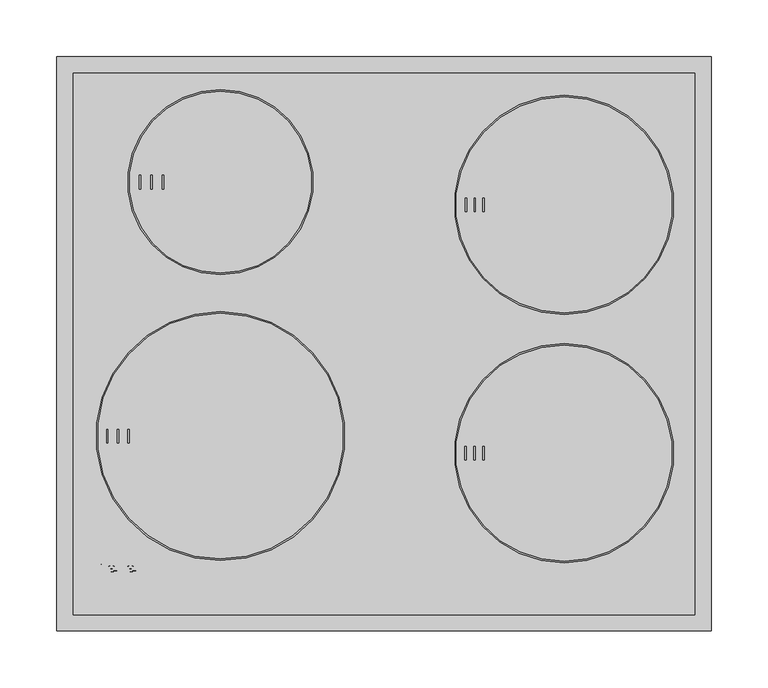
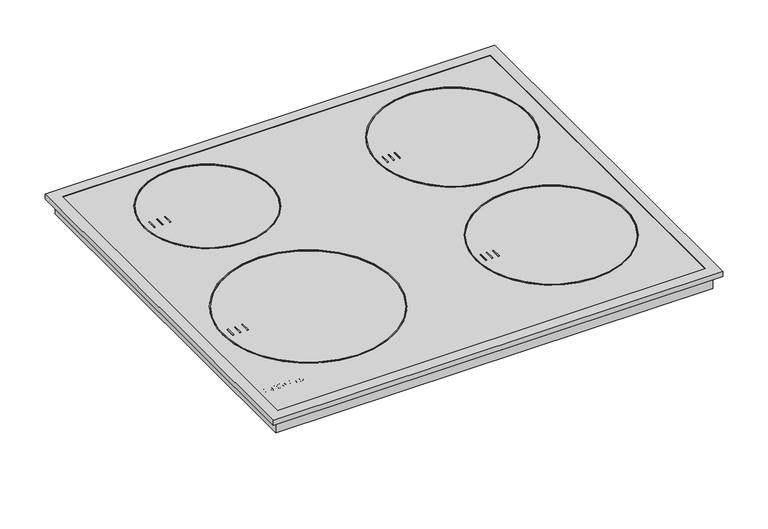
"""IFC4 building model written with IfcOpenShell, lengths in millimetres: proxy geometry, 11022840_D_KM7201FR : 26720110_D_11022840_KM7201FR."""

from ifc_helpers import new_model, si_unit, point, frame, frame_2d, origin, place, context, project, spatial, polyline, circle_curve, ellipse_curve, trimmed, segment, composite_curve, outline, extrude, faceted_brep, source, transform, mapped, element, save
from ifc_brep_helpers import plane_surface, cylinder_surface, revolved_surface, extruded_surface, advanced_brep


def specialty_equipment_637ebf5e(model_context):
    return source(origin(), model_context, "Body", "SolidModel", [
        extrude(outline(polyline([(279.0, 496.0), (279.0, 8.0), (-279.0, 8.0), (-279.0, 496.0), (279.0, 496.0)])), frame((0.0, 0.0, -18.0), z_axis=(0.0, 0.0, 1.0), x_axis=(1.0, 0.0, 0.0)), (0.0, 0.0, 1.0), 20.0),
        extrude(outline(polyline([(-192.8, 310.7), (-214.2, 310.7), (-214.2, 394.1), (-192.8, 394.1), (-192.8, 444.3), (213.2, 444.3), (213.2, 73.3), (-192.8, 73.3), (-192.8, 310.7)])), frame((0.0, 0.0, -47.7), z_axis=(0.0, 0.0, 1.0), x_axis=(1.0, 0.0, 0.0)), (0.0, 0.0, 1.0), 29.7),
        extrude(outline(polyline([(284.0, 498.0), (284.0, 1.0), (-284.0, 1.0), (-284.0, 498.0), (284.0, 498.0)])), frame((0.0, 0.0, 2.0), z_axis=(0.0, 0.0, 1.0), x_axis=(1.0, 0.0, 0.0)), (0.0, 0.0, 1.0), 4.0),
        faceted_brep([(272.9, 489.9, 7.0), (272.9, 489.9, 6.0), (272.9, 14.1, 6.0), (272.9, 14.1, 7.0), (287.0, 504.0, 0.0), (287.0, 504.0, 7.0), (287.0, 0.0, 7.0), (287.0, 0.0, 0.0), (286.0, 503.0, 6.0), (286.0, 503.0, 0.0), (286.0, 1.0, 0.0), (286.0, 1.0, 6.0), (-272.9, 14.1, 6.0), (-272.9, 14.1, 7.0), (-287.0, 0.0, 7.0), (-287.0, 0.0, 0.0), (-286.0, 1.0, 0.0), (-286.0, 1.0, 6.0), (-272.9, 489.9, 6.0), (-272.9, 489.9, 7.0), (-287.0, 504.0, 7.0), (-287.0, 504.0, 0.0), (-286.0, 503.0, 0.0), (-286.0, 503.0, 6.0)], [[[0, 1, 2, 3]], [[4, 5, 6, 7]], [[8, 9, 10, 11]], [[3, 2, 12, 13]], [[7, 6, 14, 15]], [[11, 10, 16, 17]], [[13, 12, 18, 19]], [[15, 14, 20, 21]], [[17, 16, 22, 23]], [[19, 18, 1, 0]], [[5, 20, 14, 6], [3, 13, 19, 0]], [[21, 20, 5, 4]], [[7, 15, 21, 4], [9, 22, 16, 10]], [[23, 22, 9, 8]], [[11, 17, 23, 8], [1, 18, 12, 2]]]),
        extrude(outline(polyline([(151.2772603, 407.5), (143.9, 407.5), (143.9, 408.7557039), (150.0215564, 408.7557039), (150.0215564, 412.0519266), (144.370889, 412.0519266), (144.370889, 413.3076304), (150.0215564, 413.3076304), (150.0215564, 416.2899271), (144.056963, 416.2899271), (144.056963, 417.545631), (151.2772603, 417.545631), (151.2772603, 407.5)])), frame((0.0, 0.0, -78.7), z_axis=(0.0, 0.0, 1.0), x_axis=(1.0, 0.0, 0.0)), (0.0, 0.0, 1.0), 1.0),
        extrude(outline(polyline([(142.0164442, 407.5), (135.7379248, 407.5), (135.7379248, 408.7557039), (140.7607403, 408.7557039), (140.7607403, 417.545631), (142.0164442, 417.545631), (142.0164442, 407.5)])), frame((0.0, 0.0, -78.7), z_axis=(0.0, 0.0, 1.0), x_axis=(1.0, 0.0, 0.0)), (0.0, 0.0, 1.0), 1.0),
        extrude(outline(composite_curve([segment(trimmed(circle_curve(frame_2d((143.9, 412.5)), 7.5), [point((143.9, 420.0))], [point((143.9, 405.0))], False, "CARTESIAN"), True, "CONTINUOUS"), segment(trimmed(circle_curve(frame_2d((143.9, 412.5)), 7.5), [point((143.9, 405.0))], [point((143.9, 420.0))], False, "CARTESIAN"), True, "CONTINUOUS")], self_intersect=False)), frame((0.0, 0.0, -77.7), z_axis=(0.0, 0.0, 1.0), x_axis=(1.0, 0.0, 0.0)), (0.0, 0.0, 1.0), 30.0),
        extrude(outline(composite_curve([segment(trimmed(circle_curve(frame_2d((158.0, 156.0)), 96.2), [point((158.0, 252.2))], [point((158.0, 59.8))], False, "CARTESIAN"), True, "CONTINUOUS"), segment(trimmed(circle_curve(frame_2d((158.0, 156.0)), 96.2), [point((158.0, 59.8))], [point((158.0, 252.2))], False, "CARTESIAN"), True, "CONTINUOUS")], self_intersect=False), holes=[composite_curve([segment(trimmed(circle_curve(frame_2d((158.0, 156.0)), 95.0), [point((158.0, 251.0))], [point((158.0, 61.0))], True, "CARTESIAN"), True, "CONTINUOUS"), segment(trimmed(circle_curve(frame_2d((158.0, 156.0)), 95.0), [point((158.0, 61.0))], [point((158.0, 251.0))], True, "CARTESIAN"), True, "CONTINUOUS")], self_intersect=False)]), frame((0.0, 0.0, 6.0), z_axis=(0.0, 0.0, 1.0), x_axis=(1.0, 0.0, 0.0)), (0.0, 0.0, 1.0), 1.0),
        extrude(outline(polyline([(86.8, 162.0), (88.0, 162.0), (88.0, 150.0), (86.8, 150.0), (86.8, 162.0)])), frame((0.0, 0.0, 6.0), z_axis=(0.0, 0.0, 1.0), x_axis=(1.0, 0.0, 0.0)), (0.0, 0.0, 1.0), 1.0),
        extrude(outline(polyline([(78.8, 150.0), (78.8, 162.0), (80.0, 162.0), (80.0, 150.0), (78.8, 150.0)])), frame((0.0, 0.0, 6.0), z_axis=(0.0, 0.0, 1.0), x_axis=(1.0, 0.0, 0.0)), (0.0, 0.0, 1.0), 1.0),
        extrude(outline(polyline([(70.8, 162.0), (72.0, 162.0), (72.0, 150.0), (70.8, 150.0), (70.8, 162.0)])), frame((0.0, 0.0, 6.0), z_axis=(0.0, 0.0, 1.0), x_axis=(1.0, 0.0, 0.0)), (0.0, 0.0, 1.0), 1.0),
        extrude(outline(composite_curve([segment(trimmed(circle_curve(frame_2d((-143.5, 394.0)), 81.2), [point((-143.5, 475.2))], [point((-143.5, 312.8))], False, "CARTESIAN"), True, "CONTINUOUS"), segment(trimmed(circle_curve(frame_2d((-143.5, 394.0)), 81.2), [point((-143.5, 312.8))], [point((-143.5, 475.2))], False, "CARTESIAN"), True, "CONTINUOUS")], self_intersect=False), holes=[composite_curve([segment(trimmed(circle_curve(frame_2d((-143.5, 394.0)), 80.0), [point((-143.5, 474.0))], [point((-143.5, 314.0))], True, "CARTESIAN"), True, "CONTINUOUS"), segment(trimmed(circle_curve(frame_2d((-143.5, 394.0)), 80.0), [point((-143.5, 314.0))], [point((-143.5, 474.0))], True, "CARTESIAN"), True, "CONTINUOUS")], self_intersect=False)]), frame((0.0, 0.0, 6.0), z_axis=(0.0, 0.0, 1.0), x_axis=(1.0, 0.0, 0.0)), (0.0, 0.0, 1.0), 1.0),
        extrude(outline(polyline([(-194.7, 400.0), (-193.5, 400.0), (-193.5, 388.0), (-194.7, 388.0), (-194.7, 400.0)])), frame((0.0, 0.0, 6.0), z_axis=(0.0, 0.0, 1.0), x_axis=(1.0, 0.0, 0.0)), (0.0, 0.0, 1.0), 1.0),
        extrude(outline(polyline([(-204.7, 400.0), (-203.5, 400.0), (-203.5, 388.0), (-204.7, 388.0), (-204.7, 400.0)])), frame((0.0, 0.0, 6.0), z_axis=(0.0, 0.0, 1.0), x_axis=(1.0, 0.0, 0.0)), (0.0, 0.0, 1.0), 1.0),
        extrude(outline(polyline([(-214.7, 400.0), (-213.5, 400.0), (-213.5, 388.0), (-214.7, 388.0), (-214.7, 400.0)])), frame((0.0, 0.0, 6.0), z_axis=(0.0, 0.0, 1.0), x_axis=(1.0, 0.0, 0.0)), (0.0, 0.0, 1.0), 1.0),
        extrude(outline(composite_curve([segment(trimmed(circle_curve(frame_2d((158.0, 374.0)), 96.2), [point((158.0, 470.2))], [point((158.0, 277.8))], False, "CARTESIAN"), True, "CONTINUOUS"), segment(trimmed(circle_curve(frame_2d((158.0, 374.0)), 96.2), [point((158.0, 277.8))], [point((158.0, 470.2))], False, "CARTESIAN"), True, "CONTINUOUS")], self_intersect=False), holes=[composite_curve([segment(trimmed(circle_curve(frame_2d((158.0, 374.0)), 95.0), [point((158.0, 469.0))], [point((158.0, 279.0))], True, "CARTESIAN"), True, "CONTINUOUS"), segment(trimmed(circle_curve(frame_2d((158.0, 374.0)), 95.0), [point((158.0, 279.0))], [point((158.0, 469.0))], True, "CARTESIAN"), True, "CONTINUOUS")], self_intersect=False)]), frame((0.0, 0.0, 6.0), z_axis=(0.0, 0.0, 1.0), x_axis=(1.0, 0.0, 0.0)), (0.0, 0.0, 1.0), 1.0),
        extrude(outline(polyline([(86.8, 380.0), (88.0, 380.0), (88.0, 368.0), (86.8, 368.0), (86.8, 380.0)])), frame((0.0, 0.0, 6.0), z_axis=(0.0, 0.0, 1.0), x_axis=(1.0, 0.0, 0.0)), (0.0, 0.0, 1.0), 1.0),
        extrude(outline(polyline([(79.1, 380.0), (80.3, 380.0), (80.3, 368.0), (79.1, 368.0), (79.1, 380.0)])), frame((0.0, 0.0, 6.0), z_axis=(0.0, 0.0, 1.0), x_axis=(1.0, 0.0, 0.0)), (0.0, 0.0, 1.0), 1.0),
        extrude(outline(polyline([(71.4, 380.0), (72.6, 380.0), (72.6, 368.0), (71.4, 368.0), (71.4, 380.0)])), frame((0.0, 0.0, 6.0), z_axis=(0.0, 0.0, 1.0), x_axis=(1.0, 0.0, 0.0)), (0.0, 0.0, 1.0), 1.0),
        extrude(outline(composite_curve([segment(trimmed(circle_curve(frame_2d((-143.5, 171.0)), 109.2), [point((-143.5, 280.2))], [point((-143.5, 61.8))], False, "CARTESIAN"), True, "CONTINUOUS"), segment(trimmed(circle_curve(frame_2d((-143.5, 171.0)), 109.2), [point((-143.5, 61.8))], [point((-143.5, 280.2))], False, "CARTESIAN"), True, "CONTINUOUS")], self_intersect=False), holes=[composite_curve([segment(trimmed(circle_curve(frame_2d((-143.5, 171.0)), 108.0), [point((-143.5, 279.0))], [point((-143.5, 63.0))], True, "CARTESIAN"), True, "CONTINUOUS"), segment(trimmed(circle_curve(frame_2d((-143.5, 171.0)), 108.0), [point((-143.5, 63.0))], [point((-143.5, 279.0))], True, "CARTESIAN"), True, "CONTINUOUS")], self_intersect=False)]), frame((0.0, 0.0, 6.0), z_axis=(0.0, 0.0, 1.0), x_axis=(1.0, 0.0, 0.0)), (0.0, 0.0, 1.0), 1.0),
        extrude(outline(polyline([(-243.5, 177.0), (-242.3, 177.0), (-242.3, 165.0), (-243.5, 165.0), (-243.5, 177.0)])), frame((0.0, 0.0, 6.0), z_axis=(0.0, 0.0, 1.0), x_axis=(1.0, 0.0, 0.0)), (0.0, 0.0, 1.0), 1.0),
        extrude(outline(polyline([(-234.1, 177.0), (-232.9, 177.0), (-232.9, 165.0), (-234.1, 165.0), (-234.1, 177.0)])), frame((0.0, 0.0, 6.0), z_axis=(0.0, 0.0, 1.0), x_axis=(1.0, 0.0, 0.0)), (0.0, 0.0, 1.0), 1.0),
        extrude(outline(polyline([(-224.7, 177.0), (-223.5, 177.0), (-223.5, 165.0), (-224.7, 165.0), (-224.7, 177.0)])), frame((0.0, 0.0, 6.0), z_axis=(0.0, 0.0, 1.0), x_axis=(1.0, 0.0, 0.0)), (0.0, 0.0, 1.0), 1.0),
        advanced_brep(
        [(-223.14, 52.6948833, 6.0802537), (-223.14, 53.5028828, 6.0811551), (-217.788, 53.5028828, 6.0811551), (-227.1, 53.5028828, 6.0811551), (-224.9, 50.7988845, 6.0781386), (-217.924, 52.6948833, 6.0802537), (-220.34, 52.6948833, 6.0802537), (-222.244, 51.7988838, 6.0792542), (-223.14, 54.5268821, 6.0822974), (-223.14, 55.3988816, 6.0832701), (-221.772, 55.3988816, 6.0832701), (-221.772, 54.5268821, 6.0822974), (-223.14, 52.6959988, 5.0802543), (-222.244, 51.7999994, 5.0792548), (-220.34, 52.6959988, 5.0802543), (-217.924, 52.6959988, 5.0802543), (-224.9, 50.8, 5.0781393), (-227.1, 53.5039983, 5.0811557), (-217.788, 53.5039983, 5.0811557), (-223.14, 53.5039983, 5.0811557), (-223.14, 54.5279977, 5.082298), (-221.772, 54.5279977, 5.082298), (-221.772, 55.3999971, 5.0832707), (-223.14, 55.3999971, 5.0832707)],
        [
            (0, 1),
            (1, 2),
            (2, 3, ellipse_curve(frame((-222.444, 53.5028828, 6.0811551), z_axis=(0.0, -0.0011155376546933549, 0.9999993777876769), x_axis=(-1.0, 0.0, 0.0)), 4.656, 3.848)),
            (3, 4, circle_curve(frame((-224.0039564, 53.7748826, 6.0814585), z_axis=(0.0, -0.0011155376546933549, 0.9999993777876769), x_axis=(0.0, -0.9999993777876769, -0.0011155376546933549)), 3.1079688)),
            (4, 5, circle_curve(frame((-222.5372064, 55.8868813, 6.0838145), z_axis=(0.0, -0.0011155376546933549, 0.9999993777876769), x_axis=(0.0, -0.9999993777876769, -0.0011155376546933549)), 5.6098607)),
            (5, 6),
            (6, 7, circle_curve(frame((-221.8529412, 53.4388828, 6.0810837), z_axis=(0.0, 0.0011155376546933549, -0.9999993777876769), x_axis=(0.0, -0.9999993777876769, -0.0011155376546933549)), 1.6859795)),
            (7, 0, circle_curve(frame((-222.244, 52.6948833, 6.0802537), z_axis=(0.0, 0.0011155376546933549, -0.9999993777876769), x_axis=(0.0, -0.9999993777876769, -0.0011155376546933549)), 0.896)),
            (8, 9),
            (9, 10, circle_curve(frame((-222.456, 55.3988816, 6.0832701), z_axis=(0.0, 0.0011155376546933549, -0.9999993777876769), x_axis=(0.0, -0.9999993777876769, -0.0011155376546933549)), 0.684)),
            (10, 11),
            (11, 8),
            (12, 13, circle_curve(frame((-222.244, 52.6959988, 5.0802543), z_axis=(0.0, -0.0011155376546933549, 0.9999993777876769), x_axis=(0.0, -0.9999993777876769, -0.0011155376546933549)), 0.896)),
            (13, 14, circle_curve(frame((-221.8529412, 53.4399984, 5.0810843), z_axis=(0.0, -0.0011155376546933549, 0.9999993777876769), x_axis=(0.0, -0.9999993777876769, -0.0011155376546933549)), 1.6859795)),
            (14, 15),
            (15, 16, circle_curve(frame((-222.5372064, 55.8879968, 5.0838151), z_axis=(0.0, 0.0011155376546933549, -0.9999993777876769), x_axis=(0.0, -0.9999993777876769, -0.0011155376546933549)), 5.6098607)),
            (16, 17, circle_curve(frame((-224.0039564, 53.7759981, 5.0814591), z_axis=(0.0, 0.0011155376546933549, -0.9999993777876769), x_axis=(0.0, -0.9999993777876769, -0.0011155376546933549)), 3.1079688)),
            (17, 18, ellipse_curve(frame((-222.444, 53.5039983, 5.0811557), z_axis=(0.0, 0.0011155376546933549, -0.9999993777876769), x_axis=(-1.0, 0.0, 0.0)), 4.656, 3.848)),
            (18, 19),
            (19, 12),
            (20, 21),
            (21, 22),
            (22, 23, circle_curve(frame((-222.456, 55.3999971, 5.0832707), z_axis=(0.0, -0.0011155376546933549, 0.9999993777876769), x_axis=(0.0, -0.9999993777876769, -0.0011155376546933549)), 0.684)),
            (23, 20),
            (0, 12),
            (19, 1),
            (18, 2),
            (5, 15),
            (14, 6),
            (17, 3),
            (13, 7),
            (16, 4),
            (8, 20),
            (23, 9),
            (22, 10),
            (21, 11),
        ],
        [
            plane_surface(frame((-223.14, 53.5028828, 6.0811551), z_axis=(0.0, -0.0011155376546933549, 0.9999993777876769), x_axis=(0.0, 0.9999993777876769, 0.0011155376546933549))),
            plane_surface(frame((-223.14, 53.5039983, 5.0811557), z_axis=(0.0, 0.0011155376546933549, -0.9999993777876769), x_axis=(0.0, -0.9999993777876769, -0.0011155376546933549))),
            plane_surface(frame((-223.14, 52.6948833, 6.0802537), z_axis=(1.0000000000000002, 0.0, 0.0), x_axis=(0.0, 0.001115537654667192, -0.999999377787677))),
            plane_surface(frame((-223.14, 53.5028828, 6.0811551), z_axis=(0.0, -0.999999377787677, -0.001115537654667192), x_axis=(0.0, 0.001115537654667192, -0.999999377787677))),
            plane_surface(frame((-217.924, 52.6948833, 6.0802537), z_axis=(0.0, 0.999999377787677, 0.001115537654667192), x_axis=(0.0, 0.001115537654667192, -0.999999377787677))),
            extruded_surface(trimmed(ellipse_curve(frame((-222.444, 53.5051139, 4.0811563), z_axis=(0.0, -0.0011155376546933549, 0.9999993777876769), x_axis=(-1.0, 0.0, 0.0)), 4.656, 3.848), [point((-217.788, 53.5051139, 4.0811563))], [point((-227.1, 53.5051139, 4.0811563))], True, "CARTESIAN"), (0.0, -0.001115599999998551, 0.9999994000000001), 1.00000002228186),
            revolved_surface(polyline([(-221.8529412, 51.75401994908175, 5.079203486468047), (-221.8529412, 51.75290441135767, 6.079202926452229)]), (-221.8529412, 53.4399984, 5.0810843), (0.0, 0.0011155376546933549, -0.9999993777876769)),
            revolved_surface(polyline([(-222.244, 51.79999935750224, 5.079254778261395), (-222.244, 51.79888381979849, 6.079254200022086)]), (-222.244, 52.6959988, 5.0802543), (0.0, 0.0011155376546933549, -0.9999993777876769)),
            cylinder_surface(frame((-224.0039564, 53.7759981, 5.0814591), z_axis=(0.0, -0.0011155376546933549, 0.9999993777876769), x_axis=(0.0, -0.9999993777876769, -0.0011155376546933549)), 3.1079688),
            cylinder_surface(frame((-222.5372064, 55.8879968, 5.0838151), z_axis=(0.0, -0.0011155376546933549, 0.9999993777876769), x_axis=(0.0, -0.9999993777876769, -0.0011155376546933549)), 5.6098607),
            plane_surface(frame((-223.14, 54.5268821, 6.0822974), z_axis=(1.0000000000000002, 0.0, 0.0), x_axis=(0.0, 0.001115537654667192, -0.999999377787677))),
            revolved_surface(polyline([(-222.456, 54.71599752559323, 5.08250767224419), (-222.456, 54.714881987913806, 6.082507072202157)]), (-222.456, 55.3999971, 5.0832707), (0.0, 0.0011155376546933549, -0.9999993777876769)),
            plane_surface(frame((-221.772, 55.3988816, 6.0832701), z_axis=(-1.0000000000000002, 0.0, 0.0), x_axis=(0.0, 0.001115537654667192, -0.999999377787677))),
            plane_surface(frame((-221.772, 54.5268821, 6.0822974), z_axis=(0.0, 0.999999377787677, 0.001115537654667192), x_axis=(0.0, 0.001115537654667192, -0.999999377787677))),
        ],
        [
            (0, [[1, 2, 3, 4, 5, 6, 7, 8], [9, 10, 11, 12]]),
            (1, [[13, 14, 15, 16, 17, 18, 19, 20], [21, 22, 23, 24]]),
            (2, [[-1, 25, -20, 26]]),
            (3, [[-2, -26, -19, 27]]),
            (4, [[-6, 28, -15, 29]]),
            (5, [[-3, -27, -18, 30]]),
            (6, [[-7, -29, -14, 31]]),
            (7, [[-8, -31, -13, -25]]),
            (8, [[-4, -30, -17, 32]]),
            (9, [[-5, -32, -16, -28]]),
            (10, [[-9, 33, -24, 34]]),
            (11, [[-10, -34, -23, 35]]),
            (12, [[-11, -35, -22, 36]]),
            (13, [[-12, -36, -21, -33]]),
        ],
    ),
        advanced_brep(
        [(-239.836, 52.6948833, 6.0802537), (-239.836, 53.5028828, 6.0811551), (-234.484, 53.5028828, 6.0811551), (-243.796, 53.5028828, 6.0811551), (-241.596, 50.7988845, 6.0781386), (-234.62, 52.6948833, 6.0802537), (-237.036, 52.6948833, 6.0802537), (-238.94, 51.7988838, 6.0792542), (-239.836, 54.5268821, 6.0822974), (-239.836, 55.3988816, 6.0832701), (-238.468, 55.3988816, 6.0832701), (-238.468, 54.5268821, 6.0822974), (-239.836, 52.6959988, 5.0802543), (-238.94, 51.7999994, 5.0792548), (-237.036, 52.6959988, 5.0802543), (-234.62, 52.6959988, 5.0802543), (-241.596, 50.8, 5.0781393), (-243.796, 53.5039983, 5.0811557), (-234.484, 53.5039983, 5.0811557), (-239.836, 53.5039983, 5.0811557), (-239.836, 54.5279977, 5.082298), (-238.468, 54.5279977, 5.082298), (-238.468, 55.3999971, 5.0832707), (-239.836, 55.3999971, 5.0832707)],
        [
            (0, 1),
            (1, 2),
            (2, 3, ellipse_curve(frame((-239.14, 53.5028828, 6.0811551), z_axis=(0.0, -0.0011155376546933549, 0.9999993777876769), x_axis=(-1.0, 0.0, 0.0)), 4.656, 3.848)),
            (3, 4, circle_curve(frame((-240.6999564, 53.7748826, 6.0814585), z_axis=(0.0, -0.0011155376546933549, 0.9999993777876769), x_axis=(0.0, -0.9999993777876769, -0.0011155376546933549)), 3.1079688)),
            (4, 5, circle_curve(frame((-239.2332064, 55.8868813, 6.0838145), z_axis=(0.0, -0.0011155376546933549, 0.9999993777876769), x_axis=(0.0, -0.9999993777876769, -0.0011155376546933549)), 5.6098607)),
            (5, 6),
            (6, 7, circle_curve(frame((-238.5489412, 53.4388828, 6.0810837), z_axis=(0.0, 0.0011155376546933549, -0.9999993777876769), x_axis=(0.0, -0.9999993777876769, -0.0011155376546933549)), 1.6859795)),
            (7, 0, circle_curve(frame((-238.94, 52.6948833, 6.0802537), z_axis=(0.0, 0.0011155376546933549, -0.9999993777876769), x_axis=(0.0, -0.9999993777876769, -0.0011155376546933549)), 0.896)),
            (8, 9),
            (9, 10, circle_curve(frame((-239.152, 55.3988816, 6.0832701), z_axis=(0.0, 0.0011155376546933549, -0.9999993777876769), x_axis=(0.0, -0.9999993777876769, -0.0011155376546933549)), 0.684)),
            (10, 11),
            (11, 8),
            (12, 13, circle_curve(frame((-238.94, 52.6959988, 5.0802543), z_axis=(0.0, -0.0011155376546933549, 0.9999993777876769), x_axis=(0.0, -0.9999993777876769, -0.0011155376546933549)), 0.896)),
            (13, 14, circle_curve(frame((-238.5489412, 53.4399984, 5.0810843), z_axis=(0.0, -0.0011155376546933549, 0.9999993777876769), x_axis=(0.0, -0.9999993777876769, -0.0011155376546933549)), 1.6859795)),
            (14, 15),
            (15, 16, circle_curve(frame((-239.2332064, 55.8879968, 5.0838151), z_axis=(0.0, 0.0011155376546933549, -0.9999993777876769), x_axis=(0.0, -0.9999993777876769, -0.0011155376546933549)), 5.6098607)),
            (16, 17, circle_curve(frame((-240.6999564, 53.7759981, 5.0814591), z_axis=(0.0, 0.0011155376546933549, -0.9999993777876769), x_axis=(0.0, -0.9999993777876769, -0.0011155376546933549)), 3.1079688)),
            (17, 18, ellipse_curve(frame((-239.14, 53.5039983, 5.0811557), z_axis=(0.0, 0.0011155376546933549, -0.9999993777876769), x_axis=(-1.0, 0.0, 0.0)), 4.656, 3.848)),
            (18, 19),
            (19, 12),
            (20, 21),
            (21, 22),
            (22, 23, circle_curve(frame((-239.152, 55.3999971, 5.0832707), z_axis=(0.0, -0.0011155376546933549, 0.9999993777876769), x_axis=(0.0, -0.9999993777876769, -0.0011155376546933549)), 0.684)),
            (23, 20),
            (0, 12),
            (19, 1),
            (18, 2),
            (5, 15),
            (14, 6),
            (17, 3),
            (13, 7),
            (16, 4),
            (8, 20),
            (23, 9),
            (22, 10),
            (21, 11),
        ],
        [
            plane_surface(frame((-239.836, 53.5028828, 6.0811551), z_axis=(0.0, -0.0011155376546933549, 0.9999993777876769), x_axis=(0.0, 0.9999993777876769, 0.0011155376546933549))),
            plane_surface(frame((-239.836, 53.5039983, 5.0811557), z_axis=(0.0, 0.0011155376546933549, -0.9999993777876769), x_axis=(0.0, -0.9999993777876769, -0.0011155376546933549))),
            plane_surface(frame((-239.836, 52.6948833, 6.0802537), z_axis=(1.0000000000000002, 0.0, 0.0), x_axis=(0.0, 0.001115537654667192, -0.999999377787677))),
            plane_surface(frame((-239.836, 53.5028828, 6.0811551), z_axis=(0.0, -0.999999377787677, -0.001115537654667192), x_axis=(0.0, 0.001115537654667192, -0.999999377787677))),
            plane_surface(frame((-234.62, 52.6948833, 6.0802537), z_axis=(0.0, 0.999999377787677, 0.001115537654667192), x_axis=(0.0, 0.001115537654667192, -0.999999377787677))),
            extruded_surface(trimmed(ellipse_curve(frame((-239.14, 53.5051139, 4.0811563), z_axis=(0.0, -0.0011155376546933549, 0.9999993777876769), x_axis=(-1.0, 0.0, 0.0)), 4.656, 3.848), [point((-234.484, 53.5051139, 4.0811563))], [point((-243.796, 53.5051139, 4.0811563))], True, "CARTESIAN"), (0.0, -0.001115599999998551, 0.9999994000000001), 1.00000002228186),
            revolved_surface(polyline([(-238.5489412, 51.75401994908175, 5.079203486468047), (-238.5489412, 51.75290441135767, 6.079202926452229)]), (-238.5489412, 53.4399984, 5.0810843), (0.0, 0.0011155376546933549, -0.9999993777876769)),
            revolved_surface(polyline([(-238.94, 51.79999935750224, 5.079254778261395), (-238.94, 51.79888381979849, 6.079254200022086)]), (-238.94, 52.6959988, 5.0802543), (0.0, 0.0011155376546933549, -0.9999993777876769)),
            cylinder_surface(frame((-240.6999564, 53.7759981, 5.0814591), z_axis=(0.0, -0.0011155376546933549, 0.9999993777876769), x_axis=(0.0, -0.9999993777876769, -0.0011155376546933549)), 3.1079688),
            cylinder_surface(frame((-239.2332064, 55.8879968, 5.0838151), z_axis=(0.0, -0.0011155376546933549, 0.9999993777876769), x_axis=(0.0, -0.9999993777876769, -0.0011155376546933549)), 5.6098607),
            plane_surface(frame((-239.836, 54.5268821, 6.0822974), z_axis=(1.0000000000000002, 0.0, 0.0), x_axis=(0.0, 0.001115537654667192, -0.999999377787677))),
            revolved_surface(polyline([(-239.152, 54.71599752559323, 5.08250767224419), (-239.152, 54.714881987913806, 6.082507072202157)]), (-239.152, 55.3999971, 5.0832707), (0.0, 0.0011155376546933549, -0.9999993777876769)),
            plane_surface(frame((-238.468, 55.3988816, 6.0832701), z_axis=(-1.0000000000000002, 0.0, 0.0), x_axis=(0.0, 0.001115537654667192, -0.999999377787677))),
            plane_surface(frame((-238.468, 54.5268821, 6.0822974), z_axis=(0.0, 0.999999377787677, 0.001115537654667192), x_axis=(0.0, 0.001115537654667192, -0.999999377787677))),
        ],
        [
            (0, [[1, 2, 3, 4, 5, 6, 7, 8], [9, 10, 11, 12]]),
            (1, [[13, 14, 15, 16, 17, 18, 19, 20], [21, 22, 23, 24]]),
            (2, [[-1, 25, -20, 26]]),
            (3, [[-2, -26, -19, 27]]),
            (4, [[-6, 28, -15, 29]]),
            (5, [[-3, -27, -18, 30]]),
            (6, [[-7, -29, -14, 31]]),
            (7, [[-8, -31, -13, -25]]),
            (8, [[-4, -30, -17, 32]]),
            (9, [[-5, -32, -16, -28]]),
            (10, [[-9, 33, -24, 34]]),
            (11, [[-10, -34, -23, 35]]),
            (12, [[-11, -35, -22, 36]]),
            (13, [[-12, -36, -21, -33]]),
        ],
    ),
        extrude(outline(polyline([(0.0, 0.0), (-0.0109086, -2.9993294), (-1.4390415, -2.9920868), (-1.4315307, 0.0), (0.0, 0.0)])), frame((-248.58, 58.3279953, 5.086537), z_axis=(0.0, -0.001115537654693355, 0.9999993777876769), x_axis=(-0.4247202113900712, 0.9053240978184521, 0.0010099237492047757)), (0.0, 0.0, 1.0), 1.0),
        extrude(outline(polyline([(-0.4933908, 2.4141097), (-2.7800844, -2.4601583), (-7.0459741, -0.4588767), (-7.4401145, -1.299018), (-8.6568709, -0.728194), (-5.9760369, 4.9862153), (-4.7592805, 4.4153913), (-5.1636142, 3.5535222), (-2.1941493, 2.1604399), (-1.7898157, 3.022309), (-0.4933908, 2.4141097)])), frame((-248.58, 58.3279953, 5.086537), z_axis=(0.0, -0.001115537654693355, 0.9999993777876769), x_axis=(-0.4247202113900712, 0.9053240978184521, 0.0010099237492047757)), (0.0, 0.0, 1.0), 1.0),
        extrude(outline(polyline([(0.0, 0.0), (0.0, -1.304), (-5.504, -1.304), (-5.504, 5.3519999), (-6.488, 5.3519999), (-6.488, 6.696), (0.0, 6.696), (0.0, 5.3519999), (-0.96, 5.3519999), (-0.96, 0.0), (0.0, 0.0)])), frame((-234.036, 57.4959958, 5.0856089), z_axis=(0.0, -0.0011155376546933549, 0.9999993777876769), x_axis=(-1.0, 0.0, 0.0)), (0.0, 0.0, 1.0), 1.0),
        extrude(outline(polyline([(0.0, 0.0), (0.0, -1.304), (-5.576, -1.304), (-7.92, 1.696), (-10.256, -1.304), (-15.128, -1.304), (-15.128, 0.0), (-14.112, 0.0), (-14.112, 5.3519999), (-15.128, 5.3519999), (-15.128, 6.696), (-8.744, 6.696), (-8.744, 5.3519999), (-9.728, 5.3519999), (-9.728, 1.8807777), (-6.136, 6.696), (-2.56, 1.9488752), (-2.56, 5.3519999), (-3.52, 5.3519999), (-3.52, 6.696), (0.0, 6.696), (0.0, 5.3519999), (-0.968, 5.3519999), (-0.968, 0.0), (0.0, 0.0)])), frame((-266.5, 57.4959958, 5.0856089), z_axis=(0.0, -0.0011155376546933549, 0.9999993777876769), x_axis=(-1.0, 0.0, 0.0)), (0.0, 0.0, 1.0), 1.0),
    ])


if __name__ == "__main__":
    model = new_model("IFC4")
    model_context = context("Model", 3, world=origin())
    ifc_project = project(units=[si_unit("LENGTHUNIT", "METRE", prefix="MILLI")], contexts=[model_context])
    site = spatial("IfcSite", under=ifc_project)
    building = spatial("IfcBuilding", under=site)
    placement = place(None, origin())
    specialty_equipment_shape = specialty_equipment_637ebf5e(model_context)
    element("IfcBuildingElementProxy", 1, Name="11022840_D_KM7201FR : 26720110_D_11022840_KM7201FR", ObjectType="11022840_D_KM7201FR : 26720110_D_11022840_KM7201FR", at=placement, inside=building, context=model_context, shape_type="MappedRepresentation", body=[
        mapped(specialty_equipment_shape, transform((0.0, 0.0, 0.0), x_axis=(1.0, 0.0, 0.0), y_axis=(0.0, 1.0, 0.0), z_axis=(0.0, 0.0, 1.0))),
    ])
    save(model, "model.ifc")
